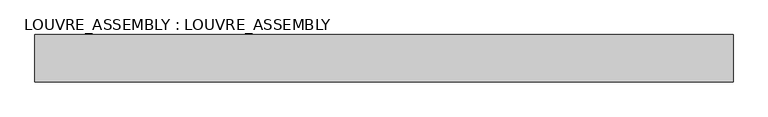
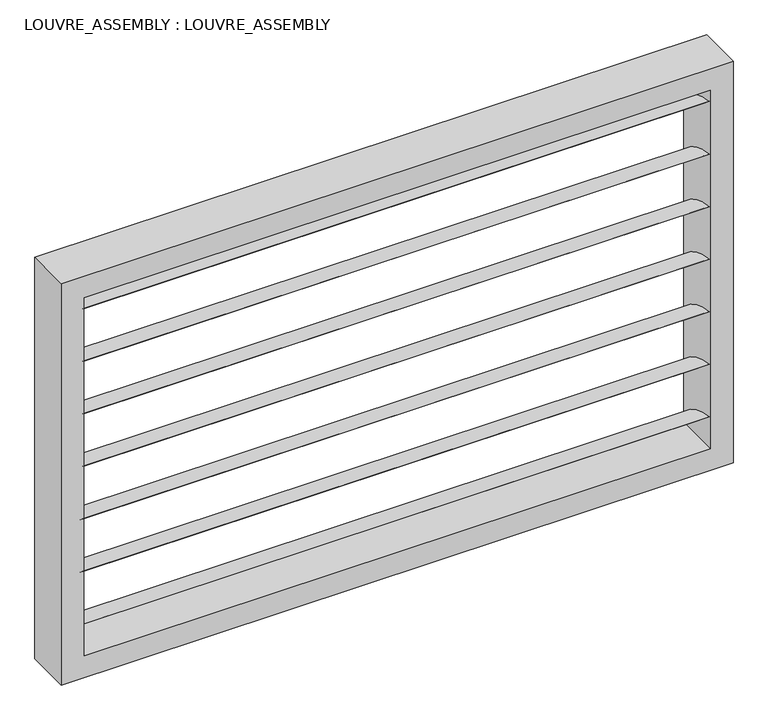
"""IFC4 building model written with IfcOpenShell, lengths in millimetres: plate geometry, LOUVRE_ASSEMBLY : LOUVRE_ASSEMBLY."""

from ifc_helpers import new_model, si_unit, point, frame, frame_2d, origin, place, context, project, spatial, circle_curve, trimmed, segment, composite_curve, outline, extrude, faceted_brep, source, transform, mapped, element, save


def louvre_assembly_louvre_assembly_f5be2cc8(model_context):
    return source(origin(), model_context, "Body", "SolidModel", [
        extrude(outline(composite_curve([segment(trimmed(circle_curve(frame_2d((88.749835, 522.8246353)), 222.9910312), [point((67.973084, 300.8036304))], [point((-67.973084, 364.1963696))], False, "CARTESIAN"), True, "CONTINUOUS"), segment(trimmed(circle_curve(frame_2d((-88.749835, 142.1753647)), 222.9910312), [point((-67.973084, 364.1963696))], [point((67.973084, 300.8036304))], False, "CARTESIAN"), True, "CONTINUOUS")], self_intersect=False)), frame((-1028.9048282, 0.0, 0.0), z_axis=(1.0, 0.0, 0.0), x_axis=(0.0, 1.0, 0.0)), (0.0, 0.0, 1.0), 2057.8096563),
        extrude(outline(composite_curve([segment(trimmed(circle_curve(frame_2d((88.749835, 705.3246353)), 222.9910312), [point((67.973084, 483.3036304))], [point((-67.973084, 546.6963696))], False, "CARTESIAN"), True, "CONTINUOUS"), segment(trimmed(circle_curve(frame_2d((-88.749835, 324.6753647)), 222.9910312), [point((-67.973084, 546.6963696))], [point((67.973084, 483.3036304))], False, "CARTESIAN"), True, "CONTINUOUS")], self_intersect=False)), frame((-1028.9048282, 0.0, 0.0), z_axis=(1.0, 0.0, 0.0), x_axis=(0.0, 1.0, 0.0)), (0.0, 0.0, 1.0), 2057.8096563),
        extrude(outline(composite_curve([segment(trimmed(circle_curve(frame_2d((88.749835, 887.8246353)), 222.9910312), [point((67.973084, 665.8036304))], [point((-67.973084, 729.1963696))], False, "CARTESIAN"), True, "CONTINUOUS"), segment(trimmed(circle_curve(frame_2d((-88.749835, 507.1753647)), 222.9910312), [point((-67.973084, 729.1963696))], [point((67.973084, 665.8036304))], False, "CARTESIAN"), True, "CONTINUOUS")], self_intersect=False)), frame((-1028.9048282, 0.0, 0.0), z_axis=(1.0, 0.0, 0.0), x_axis=(0.0, 1.0, 0.0)), (0.0, 0.0, 1.0), 2057.8096563),
        extrude(outline(composite_curve([segment(trimmed(circle_curve(frame_2d((88.749835, 1070.3246353)), 222.9910312), [point((67.973084, 848.3036304))], [point((-67.973084, 911.6963696))], False, "CARTESIAN"), True, "CONTINUOUS"), segment(trimmed(circle_curve(frame_2d((-88.749835, 689.6753647)), 222.9910312), [point((-67.973084, 911.6963696))], [point((67.973084, 848.3036304))], False, "CARTESIAN"), True, "CONTINUOUS")], self_intersect=False)), frame((-1028.9048282, 0.0, 0.0), z_axis=(1.0, 0.0, 0.0), x_axis=(0.0, 1.0, 0.0)), (0.0, 0.0, 1.0), 2057.8096563),
        extrude(outline(composite_curve([segment(trimmed(circle_curve(frame_2d((88.749835, 1252.8246353)), 222.9910312), [point((67.973084, 1030.8036304))], [point((-67.973084, 1094.1963696))], False, "CARTESIAN"), True, "CONTINUOUS"), segment(trimmed(circle_curve(frame_2d((-88.749835, 872.1753647)), 222.9910312), [point((-67.973084, 1094.1963696))], [point((67.973084, 1030.8036304))], False, "CARTESIAN"), True, "CONTINUOUS")], self_intersect=False)), frame((-1028.9048282, 0.0, 0.0), z_axis=(1.0, 0.0, 0.0), x_axis=(0.0, 1.0, 0.0)), (0.0, 0.0, 1.0), 2057.8096563),
        extrude(outline(composite_curve([segment(trimmed(circle_curve(frame_2d((88.749835, 340.3246353)), 222.9910312), [point((67.973084, 118.3036304))], [point((-67.973084, 181.6963696))], False, "CARTESIAN"), True, "CONTINUOUS"), segment(trimmed(circle_curve(frame_2d((-88.749835, -40.3246353)), 222.9910312), [point((-67.973084, 181.6963696))], [point((67.973084, 118.3036304))], False, "CARTESIAN"), True, "CONTINUOUS")], self_intersect=False)), frame((-1028.9048282, 0.0, 0.0), z_axis=(1.0, 0.0, 0.0), x_axis=(0.0, 1.0, 0.0)), (0.0, 0.0, 1.0), 2057.8096563),
        extrude(outline(composite_curve([segment(trimmed(circle_curve(frame_2d((88.749835, 1435.3246353)), 222.9910312), [point((67.973084, 1213.3036304))], [point((-67.973084, 1276.6963696))], False, "CARTESIAN"), True, "CONTINUOUS"), segment(trimmed(circle_curve(frame_2d((-88.749835, 1054.6753647)), 222.9910312), [point((-67.973084, 1276.6963696))], [point((67.973084, 1213.3036304))], False, "CARTESIAN"), True, "CONTINUOUS")], self_intersect=False)), frame((-1028.9048282, 0.0, 0.0), z_axis=(1.0, 0.0, 0.0), x_axis=(0.0, 1.0, 0.0)), (0.0, 0.0, 1.0), 2057.8096563),
        faceted_brep([(-1103.9048282, -75.0, 1395.0), (-1103.9048282, 75.0, 1395.0), (-1103.9048282, 75.0, 0.0), (-1103.9048282, -75.0, 0.0), (-1098.2798282, 75.0, 1389.375), (-1098.2798282, -69.375, 1389.375), (-1098.2798282, -69.375, 5.625), (-1098.2798282, 75.0, 5.625), (-1034.5298282, -69.375, 1325.625), (-1034.5298282, 75.0, 1325.625), (-1034.5298282, 75.0, 69.375), (-1034.5298282, -69.375, 69.375), (-1028.9048282, 75.0, 1320.0), (-1028.9048282, -75.0, 1320.0), (-1028.9048282, -75.0, 75.0), (-1028.9048282, 75.0, 75.0), (1103.9048282, 75.0, 0.0), (1103.9048282, -75.0, 0.0), (1098.2798282, -69.375, 5.625), (1098.2798282, 75.0, 5.625), (1034.5298282, 75.0, 69.375), (1034.5298282, -69.375, 69.375), (1028.9048282, -75.0, 75.0), (1028.9048282, 75.0, 75.0), (1103.9048282, 75.0, 1395.0), (1103.9048282, -75.0, 1395.0), (1098.2798282, -69.375, 1389.375), (1098.2798282, 75.0, 1389.375), (1034.5298282, 75.0, 1325.625), (1034.5298282, -69.375, 1325.625), (1028.9048282, -75.0, 1320.0), (1028.9048282, 75.0, 1320.0)], [[[0, 1, 2, 3]], [[4, 5, 6, 7]], [[8, 9, 10, 11]], [[12, 13, 14, 15]], [[3, 2, 16, 17]], [[7, 6, 18, 19]], [[11, 10, 20, 21]], [[15, 14, 22, 23]], [[17, 16, 24, 25]], [[19, 18, 26, 27]], [[21, 20, 28, 29]], [[23, 22, 30, 31]], [[25, 24, 1, 0]], [[27, 26, 5, 4]], [[29, 28, 9, 8]], [[31, 30, 13, 12]], [[3, 17, 25, 0], [13, 30, 22, 14]], [[9, 28, 20, 10], [15, 23, 31, 12]], [[5, 26, 18, 6], [11, 21, 29, 8]], [[1, 24, 16, 2], [7, 19, 27, 4]]]),
    ])


if __name__ == "__main__":
    model = new_model("IFC4")
    model_context = context("Model", 3, world=origin())
    ifc_project = project(units=[si_unit("LENGTHUNIT", "METRE", prefix="MILLI")], contexts=[model_context])
    site = spatial("IfcSite", under=ifc_project)
    building = spatial("IfcBuilding", under=site)
    placement = place(None, origin())
    louvre_assembly_louvre_assembly_shape = louvre_assembly_louvre_assembly_f5be2cc8(model_context)
    element("IfcPlate", 1, ObjectType="LOUVRE_ASSEMBLY : LOUVRE_ASSEMBLY", at=placement, inside=building, context=model_context, shape_type="MappedRepresentation", body=[
        mapped(louvre_assembly_louvre_assembly_shape, transform((0.0, 0.0, 0.0), x_axis=(1.0, 0.0, 0.0), y_axis=(0.0, 1.0, 0.0), z_axis=(0.0, 0.0, 1.0))),
    ])
    save(model, "model.ifc")
